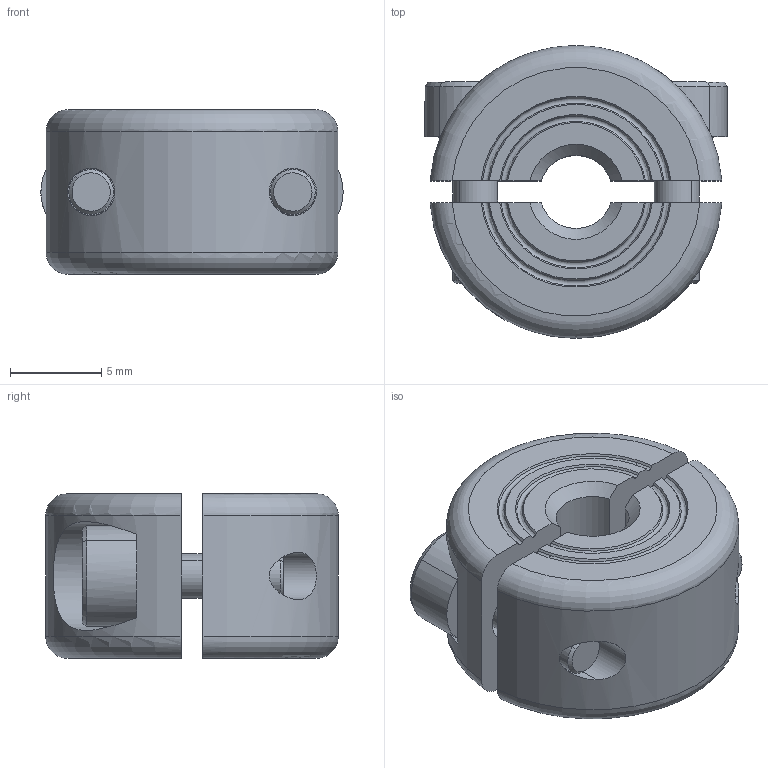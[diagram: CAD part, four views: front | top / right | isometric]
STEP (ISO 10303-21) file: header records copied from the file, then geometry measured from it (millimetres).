
FILE_DESCRIPTION((''),'2;1');
FILE_NAME('MSP-4-X','2016-09-08T',('SYSTEM'),(''),'PRO/ENGINEER BY PARAMETRIC TECHNOLOGY CORPORATION, 2015110','PRO/ENGINEER BY PARAMETRIC TECHNOLOGY CORPORATION, 2015110','');
FILE_SCHEMA(('AUTOMOTIVE_DESIGN { 1 0 10303 214 1 1 1 1 }'));
Length unit declared in the file: inch
Products named in the file (1): MSP-4-X
Bounding box: 16.52 x 16 x 9 mm (x, y, z)
Volume: 1499.6 mm3; surface area: 1467 mm2
Topology: 2 solids, 2 shells, 90 faces, 224 edges, 146 vertices
Faces by surface type: plane 36, cylinder 26, cone 20, torus 8
Entity records: 3647 total; most frequent: CARTESIAN_POINT 828, ORIENTED_EDGE 448, DIRECTION 430, EDGE_CURVE 224, AXIS2_PLACEMENT_3D 168, VERTEX_POINT 146, EDGE_LOOP 102, VECTOR 94
